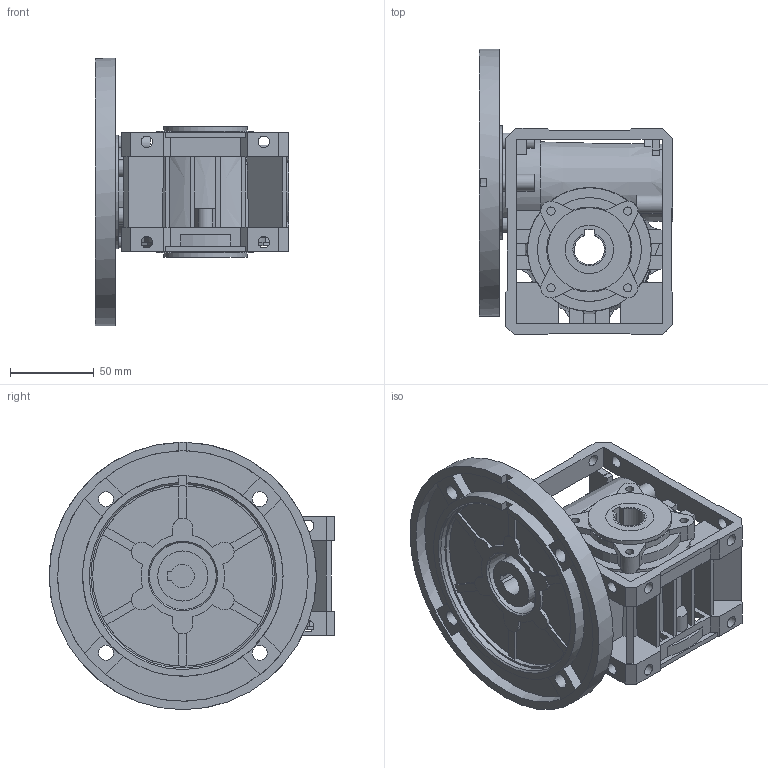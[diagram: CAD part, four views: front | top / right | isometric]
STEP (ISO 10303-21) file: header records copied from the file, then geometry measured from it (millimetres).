
FILE_DESCRIPTION (( 'STEP AP203' ), '1' );
FILE_NAME ('MU 40 PAM 71 B5.STEP', '2016-03-10T08:21:05', ( 'm.piscopiello' ), ( '' ), 'SwSTEP 2.0', 'SolidWorks 2015', '' );
FILE_SCHEMA (( 'CONFIG_CONTROL_DESIGN' ));
Length unit declared in the file: millimetre
Products named in the file (1): MU 40 PAM 71 B5
Bounding box: 116 x 171 x 160 mm (x, y, z)
Volume: 678826.5 mm3; surface area: 155696.3 mm2
Topology: 1 solids, 7 shells, 593 faces, 1727 edges, 1134 vertices
Faces by surface type: plane 418, cylinder 150, cone 23, bspline 2
Full cylindrical faces by diameter (mm): 4.134 x6, 4.917 x8, 7 x16, 9 x4, 30 x1, 40 x1, 50 x2, 68 x1, 108 x1, 120 x1, 150 x1, 160 x1
Entity records: 20022 total; most frequent: CARTESIAN_POINT 4188, ORIENTED_EDGE 3348, DIRECTION 3220, EDGE_CURVE 1674, VERTEX_POINT 1125, AXIS2_PLACEMENT_3D 1096, LINE 1028, VECTOR 1028
